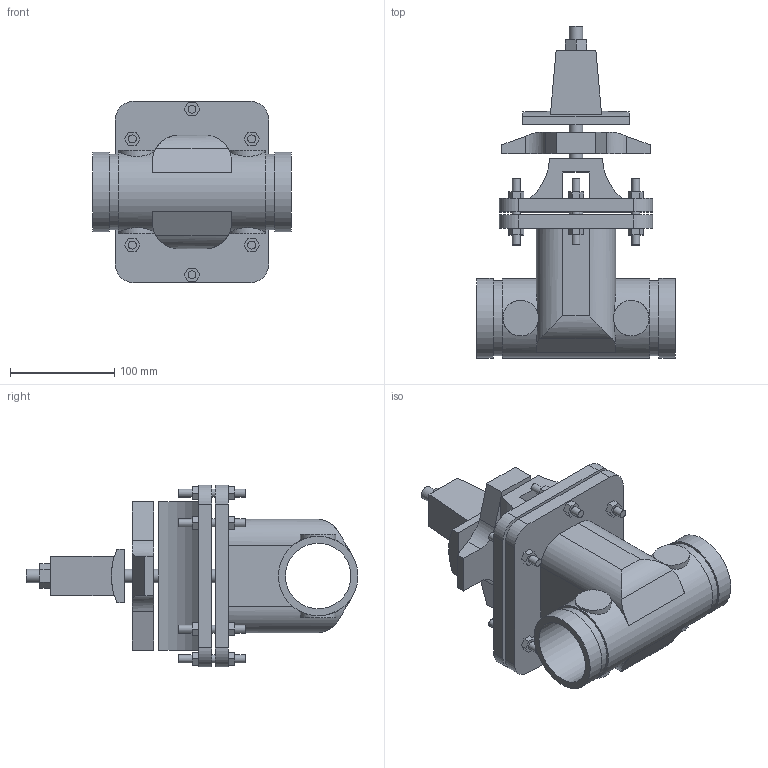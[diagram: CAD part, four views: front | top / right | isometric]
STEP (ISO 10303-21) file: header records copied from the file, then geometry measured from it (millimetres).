
FILE_DESCRIPTION(/* description */ ('VIC GATE VALVE SERIES 772H NRS','CAx-IF Rec.Pracs.---Representation and Presentation of Product Manufacturing Information (PMI)---4.0---2014-10-13'),/* implementation_level */ '2;1');
FILE_NAME(/* name */ 'C:\Users\Vjadhav\AppData\Roaming\Autodesk\ApplicationPlugins\Back Up\Victaulic_FP-FireLock_Valve Gate NRS_Series 772H (OGS)\Victaulic_FP-FireLock_Valve Gate NRS_Series 772H (OGS)_02.5 (76.1) (65).stp',/* time_stamp */ '2020-07-20T15:49:24+05:00',/* author */ ('kkamble'),/* organization */ ('Victaulic'),/* preprocessor_version */ 'ST-DEVELOPER v17.2',/* originating_system */ 'Autodesk Inventor 2019',/* authorisation */ '');
FILE_SCHEMA (('AP242_MANAGED_MODEL_BASED_3D_ENGINEERING_MIM_LF { 1 0 10303 442 1 1 4 }'));
Length unit declared in the file: inch
Products named in the file (1): 772H-02.5 (76.1)
Bounding box: 190.5 x 318.01 x 173.99 mm (x, y, z)
Volume: 2098006 mm3; surface area: 300823.1 mm2
Topology: 1 solids, 1 shells, 221 faces, 563 edges, 383 vertices
Faces by surface type: plane 168, cylinder 53
Full cylindrical faces by diameter (mm): 7.62 x18, 12.7 x4, 34.036 x4, 62.706 x1, 72.263 x2, 76.2 x3
Entity records: 7421 total; most frequent: CARTESIAN_POINT 1569, DIRECTION 1134, ORIENTED_EDGE 1126, EDGE_CURVE 563, LINE 406, VECTOR 406, VERTEX_POINT 383, AXIS2_PLACEMENT_3D 364
